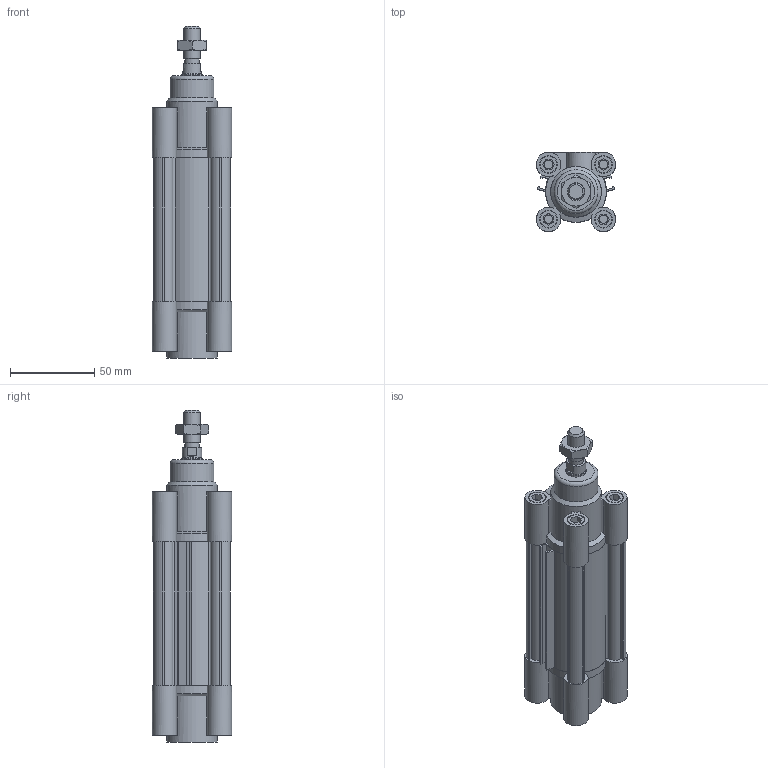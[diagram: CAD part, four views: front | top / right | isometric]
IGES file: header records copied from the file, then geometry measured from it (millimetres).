
Global section: file name: No Iges File Name specified; native system: Autodesk Inventor 2012; preprocessor: AutoDesk Inventor Iges Exporter R2012; author: pilonfr1; date: 20120128.095002; units: millimetre
Bounding box: 47 x 47 x 196.5 mm (x, y, z)
Volume: 185682.6 mm3; surface area: 80408.4 mm2
Topology: 5 solids, 5 shells, 316 faces, 788 edges, 522 vertices
Faces by surface type: plane 200, cylinder 54, revolution 39, cone 22, torus 1
Full cylindrical faces by diameter (mm): 8.8 x1, 10 x9, 11.5 x1, 12 x1, 26 x1, 30 x2, 32 x3
